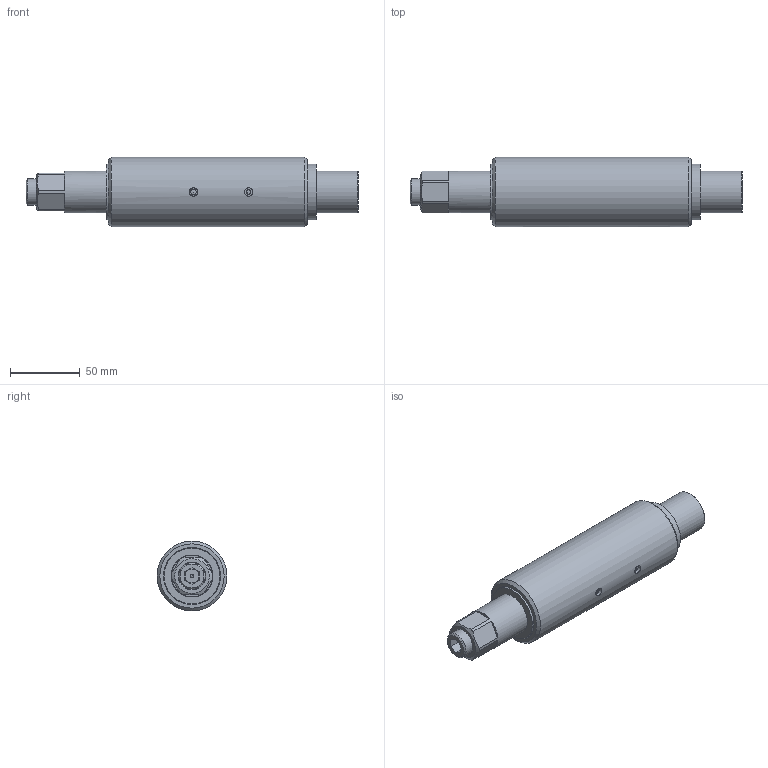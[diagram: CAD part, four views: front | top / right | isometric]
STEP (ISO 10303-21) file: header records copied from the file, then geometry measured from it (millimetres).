
FILE_DESCRIPTION( ( 'Unknown' ), '1' );
FILE_NAME( 'C:/Users/Wucherer/Desktop/MSPD 50 L1=150.stp', 'Unknown', ( 'Unknown' ), ( 'Unknown' ), 'PSStep 10.1', 'Unknown', ' ' );
FILE_SCHEMA( ( 'AUTOMOTIVE_DESIGN { 1 0 10303 214 1 1 1 1 }' ) );
Length unit declared in the file: millimetre
Products named in the file (1): 43132047-step
Bounding box: 237.5 x 50 x 50 mm (x, y, z)
Volume: 325730.8 mm3; surface area: 47533.6 mm2
Topology: 1 solids, 4 shells, 103 faces, 227 edges, 150 vertices
Faces by surface type: plane 51, cylinder 25, cone 22, sphere 3, torus 2
Full cylindrical faces by diameter (mm): 2 x1, 3.242 x2, 4 x2, 6 x2, 8 x1, 9 x1, 10 x3, 12 x1, 19 x1, 30 x4, 37.917 x1, 40 x4, 50 x1
Entity records: 3562 total; most frequent: CARTESIAN_POINT 686, DIRECTION 452, ORIENTED_EDGE 322, AXIS2_PLACEMENT_3D 197, EDGE_LOOP 170, EDGE_CURVE 161, FACE_OUTER_BOUND 129, VERTEX_POINT 129
